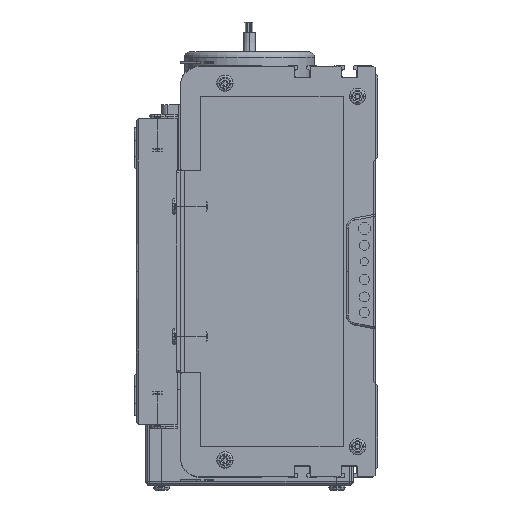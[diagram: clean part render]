
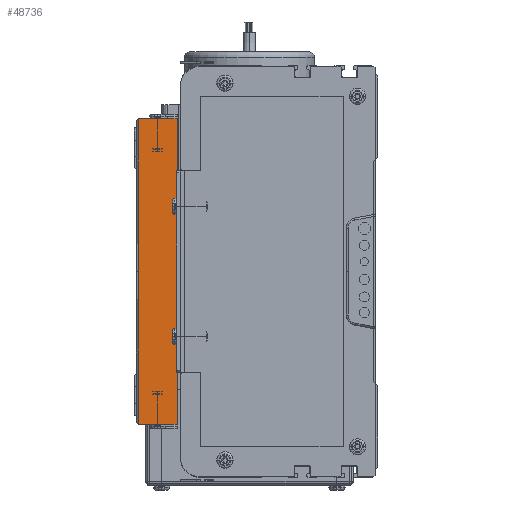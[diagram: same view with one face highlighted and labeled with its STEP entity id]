
A CAD part, left-side view. The second image highlights one B-rep face of the part: STEP entity #48736.
In plain terms, the highlighted planar face has unit normal (-1, 0, 0).
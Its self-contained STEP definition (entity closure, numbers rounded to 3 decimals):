
#44042 = ORIENTED_EDGE ( 'NONE', *, *, #50114, .T. ) ;
#48293 = EDGE_CURVE ( 'NONE', #48786, #48481, #89479, .T. ) ;
#48352 = EDGE_CURVE ( 'NONE', #48536, #48481, #91490, .T. ) ;
#48481 = VERTEX_POINT ( 'NONE', #92688 ) ;
#48536 = VERTEX_POINT ( 'NONE', #92815 ) ;
#48587 = VERTEX_POINT ( 'NONE', #92942 ) ;
#48607 = ORIENTED_EDGE ( 'NONE', *, *, #48352, .T. ) ;
#48627 = EDGE_LOOP ( 'NONE', ( #48803, #44042, #50258, #50395, #48607 ) ) ;
#48736 = ADVANCED_FACE ( 'NONE', ( #93361 ), #93387, .F. ) ;
#48786 = VERTEX_POINT ( 'NONE', #93621 ) ;
#48794 = EDGE_CURVE ( 'NONE', #48809, #48536, #93807, .T. ) ;
#48803 = ORIENTED_EDGE ( 'NONE', *, *, #48293, .F. ) ;
#48809 = VERTEX_POINT ( 'NONE', #93936 ) ;
#50114 = EDGE_CURVE ( 'NONE', #48786, #48587, #94175, .T. ) ;
#50258 = ORIENTED_EDGE ( 'NONE', *, *, #50262, .T. ) ;
#50262 = EDGE_CURVE ( 'NONE', #48587, #48809, #94379, .T. ) ;
#50395 = ORIENTED_EDGE ( 'NONE', *, *, #48794, .T. ) ;
#89475 = DIRECTION ( 'NONE',  ( 0., -1., 0. ) ) ;
#89477 = VECTOR ( 'NONE', #89475, 1000. ) ;
#89478 = CARTESIAN_POINT ( 'NONE',  ( 0., 20., 75. ) ) ;
#89479 = LINE ( 'NONE', #89478, #89477 ) ;
#91484 = DIRECTION ( 'NONE',  ( 0., 0., 1. ) ) ;
#91487 = VECTOR ( 'NONE', #91484, 1000. ) ;
#91489 = CARTESIAN_POINT ( 'NONE',  ( 0., 0., 0. ) ) ;
#91490 = LINE ( 'NONE', #91489, #91487 ) ;
#92688 = CARTESIAN_POINT ( 'NONE',  ( 0., 0., 75. ) ) ;
#92815 = CARTESIAN_POINT ( 'NONE',  ( 0., 0., -75. ) ) ;
#92942 = CARTESIAN_POINT ( 'NONE',  ( 0., 19., 0. ) ) ;
#93277 = DIRECTION ( 'NONE',  ( 0., 0., -1. ) ) ;
#93278 = DIRECTION ( 'NONE',  ( 1., 0., 0. ) ) ;
#93279 = CARTESIAN_POINT ( 'NONE',  ( 0., 20., 0. ) ) ;
#93361 = FACE_OUTER_BOUND ( 'NONE', #48627, .T. ) ;
#93375 = AXIS2_PLACEMENT_3D ( 'NONE', #93279, #93278, #93277 ) ;
#93387 = PLANE ( 'NONE',  #93375 ) ;
#93621 = CARTESIAN_POINT ( 'NONE',  ( 0., 19., 75. ) ) ;
#93803 = DIRECTION ( 'NONE',  ( 0., -1., 0. ) ) ;
#93805 = VECTOR ( 'NONE', #93803, 1000. ) ;
#93806 = CARTESIAN_POINT ( 'NONE',  ( 0., 20., -75. ) ) ;
#93807 = LINE ( 'NONE', #93806, #93805 ) ;
#93936 = CARTESIAN_POINT ( 'NONE',  ( 0., 19., -75. ) ) ;
#94172 = DIRECTION ( 'NONE',  ( 0., 0., -1. ) ) ;
#94173 = VECTOR ( 'NONE', #94172, 1000. ) ;
#94174 = CARTESIAN_POINT ( 'NONE',  ( 0., 19., 0. ) ) ;
#94175 = LINE ( 'NONE', #94174, #94173 ) ;
#94376 = DIRECTION ( 'NONE',  ( 0., 0., -1. ) ) ;
#94377 = VECTOR ( 'NONE', #94376, 1000. ) ;
#94378 = CARTESIAN_POINT ( 'NONE',  ( 0., 19., 0. ) ) ;
#94379 = LINE ( 'NONE', #94378, #94377 ) ;
